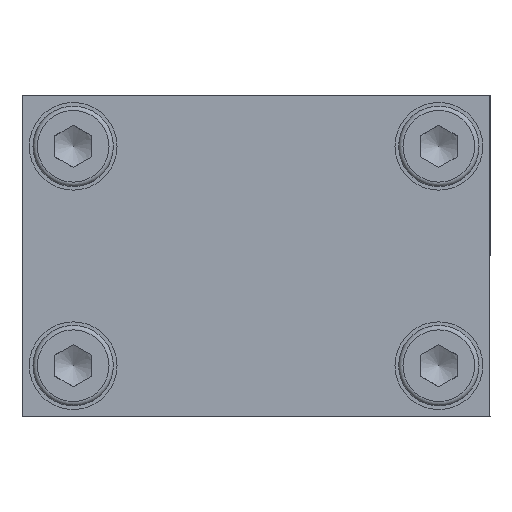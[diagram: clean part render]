
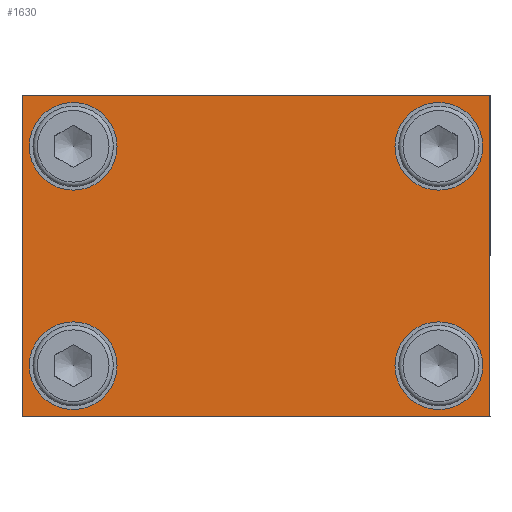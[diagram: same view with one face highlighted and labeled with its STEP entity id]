
A CAD part, left-side view. The second image highlights one B-rep face of the part: STEP entity #1630.
In plain terms, the highlighted planar face has unit normal (-1, 0, 0).
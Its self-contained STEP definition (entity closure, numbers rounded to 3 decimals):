
#152 = VERTEX_POINT ( 'NONE', #952 ) ;
#153 = VERTEX_POINT ( 'NONE', #953 ) ;
#154 = VERTEX_POINT ( 'NONE', #954 ) ;
#155 = VERTEX_POINT ( 'NONE', #955 ) ;
#952 = CARTESIAN_POINT ( 'NONE',  ( -15., 0., 22. ) ) ;
#953 = CARTESIAN_POINT ( 'NONE',  ( -15., 0., 0. ) ) ;
#954 = CARTESIAN_POINT ( 'NONE',  ( -15., 32., 22. ) ) ;
#955 = CARTESIAN_POINT ( 'NONE',  ( -15., 32., 0. ) ) ;
#1630 = ADVANCED_FACE ( 'NONE', ( #7697, #7707, #7712, #7714, #7705 ), #7134, .T. ) ;
#1961 = EDGE_LOOP ( 'NONE', ( #2276 ) ) ;
#1987 = EDGE_LOOP ( 'NONE', ( #2277 ) ) ;
#1988 = EDGE_LOOP ( 'NONE', ( #2278 ) ) ;
#1989 = EDGE_LOOP ( 'NONE', ( #2279 ) ) ;
#1990 = EDGE_LOOP ( 'NONE', ( #2280, #2281, #2282, #2283 ) ) ;
#2276 = ORIENTED_EDGE ( 'NONE', *, *, #3465, .T. ) ;
#2277 = ORIENTED_EDGE ( 'NONE', *, *, #3464, .T. ) ;
#2278 = ORIENTED_EDGE ( 'NONE', *, *, #3463, .T. ) ;
#2279 = ORIENTED_EDGE ( 'NONE', *, *, #3455, .T. ) ;
#2280 = ORIENTED_EDGE ( 'NONE', *, *, #3467, .F. ) ;
#2281 = ORIENTED_EDGE ( 'NONE', *, *, #3461, .F. ) ;
#2282 = ORIENTED_EDGE ( 'NONE', *, *, #3468, .F. ) ;
#2283 = ORIENTED_EDGE ( 'NONE', *, *, #3466, .F. ) ;
#3455 = EDGE_CURVE ( 'NONE', #15159, #15159, #10431, .T. ) ;
#3461 = EDGE_CURVE ( 'NONE', #154, #152, #10437, .T. ) ;
#3463 = EDGE_CURVE ( 'NONE', #15169, #15169, #10442, .T. ) ;
#3464 = EDGE_CURVE ( 'NONE', #15171, #15171, #10443, .T. ) ;
#3465 = EDGE_CURVE ( 'NONE', #15173, #15173, #10445, .T. ) ;
#3466 = EDGE_CURVE ( 'NONE', #153, #155, #10441, .T. ) ;
#3467 = EDGE_CURVE ( 'NONE', #152, #153, #10446, .T. ) ;
#3468 = EDGE_CURVE ( 'NONE', #155, #154, #10447, .T. ) ;
#7134 = PLANE ( 'NONE',  #8129 ) ;
#7135 = CARTESIAN_POINT ( 'NONE',  ( -15., 16., 11. ) ) ;
#7140 = DIRECTION ( 'NONE',  ( -1., 0., 0. ) ) ;
#7141 = DIRECTION ( 'NONE',  ( 0., 0.707, 0.707 ) ) ;
#7697 = FACE_BOUND ( 'NONE', #1961, .T. ) ;
#7705 = FACE_OUTER_BOUND ( 'NONE', #1990, .T. ) ;
#7707 = FACE_BOUND ( 'NONE', #1987, .T. ) ;
#7712 = FACE_BOUND ( 'NONE', #1988, .T. ) ;
#7714 = FACE_BOUND ( 'NONE', #1989, .T. ) ;
#8129 = AXIS2_PLACEMENT_3D ( 'NONE', #7135, #7140, #7141 ) ;
#10412 = VECTOR ( 'NONE', #11568, 1000. ) ;
#10431 = CIRCLE ( 'NONE', #10886, 3. ) ;
#10437 = LINE ( 'NONE', #11567, #10412 ) ;
#10440 = VECTOR ( 'NONE', #11582, 1000. ) ;
#10441 = LINE ( 'NONE', #11579, #10444 ) ;
#10442 = CIRCLE ( 'NONE', #10885, 3. ) ;
#10443 = CIRCLE ( 'NONE', #11084, 3. ) ;
#10444 = VECTOR ( 'NONE', #11580, 1000. ) ;
#10445 = CIRCLE ( 'NONE', #11085, 3. ) ;
#10446 = LINE ( 'NONE', #11581, #10440 ) ;
#10447 = LINE ( 'NONE', #11583, #10448 ) ;
#10448 = VECTOR ( 'NONE', #11584, 1000. ) ;
#10885 = AXIS2_PLACEMENT_3D ( 'NONE', #11571, #11573, #11574 ) ;
#10886 = AXIS2_PLACEMENT_3D ( 'NONE', #11534, #11552, #11553 ) ;
#11084 = AXIS2_PLACEMENT_3D ( 'NONE', #11569, #11575, #11576 ) ;
#11085 = AXIS2_PLACEMENT_3D ( 'NONE', #11572, #11577, #11578 ) ;
#11534 = CARTESIAN_POINT ( 'NONE',  ( -15., 3.5, 3.5 ) ) ;
#11552 = DIRECTION ( 'NONE',  ( 1., 0., 0. ) ) ;
#11553 = DIRECTION ( 'NONE',  ( 0., 1., 0. ) ) ;
#11567 = CARTESIAN_POINT ( 'NONE',  ( -15., 0., 22. ) ) ;
#11568 = DIRECTION ( 'NONE',  ( 0., -1., 0. ) ) ;
#11569 = CARTESIAN_POINT ( 'NONE',  ( -15., 28.5, 18.5 ) ) ;
#11571 = CARTESIAN_POINT ( 'NONE',  ( -15., 3.5, 18.5 ) ) ;
#11572 = CARTESIAN_POINT ( 'NONE',  ( -15., 28.5, 3.5 ) ) ;
#11573 = DIRECTION ( 'NONE',  ( 1., 0., 0. ) ) ;
#11574 = DIRECTION ( 'NONE',  ( 0., 1., 0. ) ) ;
#11575 = DIRECTION ( 'NONE',  ( 1., 0., 0. ) ) ;
#11576 = DIRECTION ( 'NONE',  ( 0., 1., 0. ) ) ;
#11577 = DIRECTION ( 'NONE',  ( 1., 0., 0. ) ) ;
#11578 = DIRECTION ( 'NONE',  ( 0., 1., 0. ) ) ;
#11579 = CARTESIAN_POINT ( 'NONE',  ( -15., 32., 0. ) ) ;
#11580 = DIRECTION ( 'NONE',  ( 0., 1., 0. ) ) ;
#11581 = CARTESIAN_POINT ( 'NONE',  ( -15., 0., 0. ) ) ;
#11582 = DIRECTION ( 'NONE',  ( 0., 0., -1. ) ) ;
#11583 = CARTESIAN_POINT ( 'NONE',  ( -15., 32., 22. ) ) ;
#11584 = DIRECTION ( 'NONE',  ( 0., 0., 1. ) ) ;
#15159 = VERTEX_POINT ( 'NONE', #15160 ) ;
#15160 = CARTESIAN_POINT ( 'NONE',  ( -15., 6.5, 3.5 ) ) ;
#15169 = VERTEX_POINT ( 'NONE', #15170 ) ;
#15170 = CARTESIAN_POINT ( 'NONE',  ( -15., 6.5, 18.5 ) ) ;
#15171 = VERTEX_POINT ( 'NONE', #15172 ) ;
#15172 = CARTESIAN_POINT ( 'NONE',  ( -15., 31.5, 18.5 ) ) ;
#15173 = VERTEX_POINT ( 'NONE', #15174 ) ;
#15174 = CARTESIAN_POINT ( 'NONE',  ( -15., 31.5, 3.5 ) ) ;
